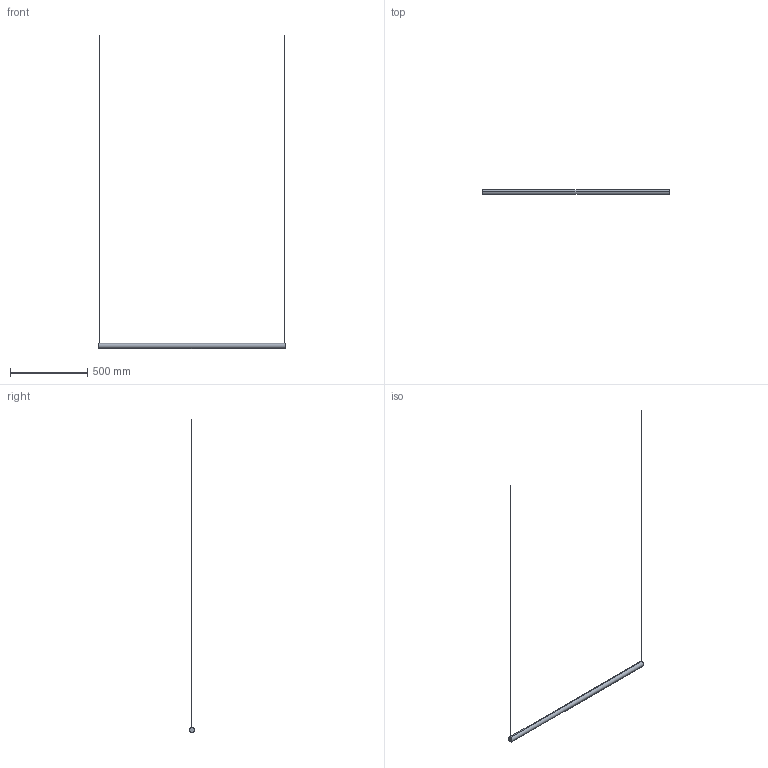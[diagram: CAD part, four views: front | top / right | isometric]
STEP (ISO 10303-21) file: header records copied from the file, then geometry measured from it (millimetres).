
FILE_DESCRIPTION(/* description */ (''),/* implementation_level */ '2;1');
FILE_NAME(/* name */ 'LIMBO120 P',/* time_stamp */ '2026-08-05T17:38:04+09:00',/* author */ (''),/* organization */ (''),/* preprocessor_version */ 'ST-DEVELOPER v19.2',/* originating_system */ 'Rhino 8.21',/* authorisation */ '');
FILE_SCHEMA (('CONFIG_CONTROL_DESIGN'));
Length unit declared in the file: millimetre
Products named in the file (1): Document
Bounding box: 1212 x 32 x 2033.38 mm (x, y, z)
Volume: 999562.7 mm3; surface area: 153189.6 mm2
Topology: 1 solids, 1 shells, 24 faces, 54 edges, 36 vertices
Faces by surface type: cylinder 12, plane 12
Entity records: 870 total; most frequent: CARTESIAN_POINT 294, ORIENTED_EDGE 108, DIRECTION 76, EDGE_CURVE 54, AXIS2_PLACEMENT_3D 50, VERTEX_POINT 36, EDGE_LOOP 28, ADVANCED_FACE 24
